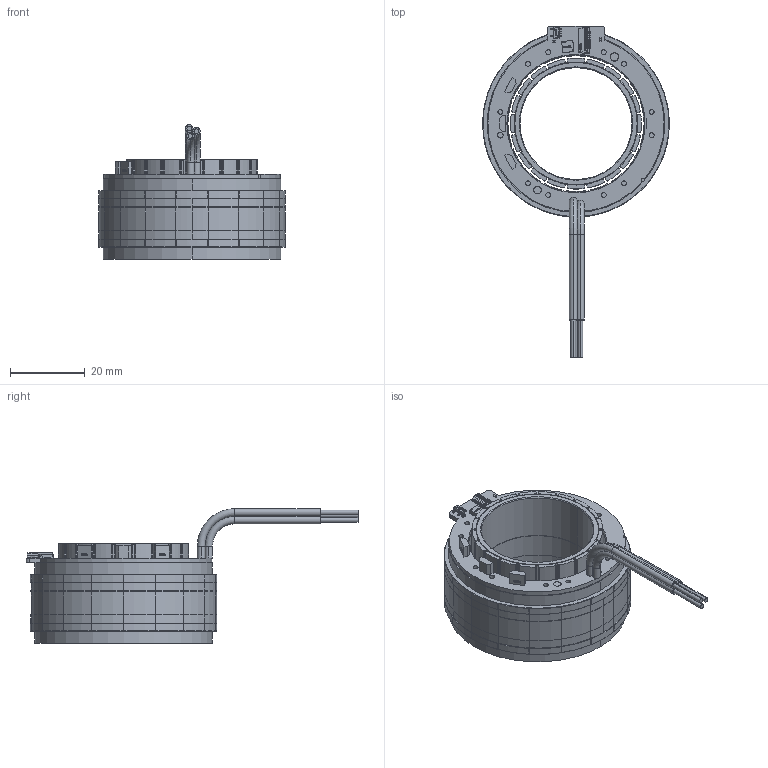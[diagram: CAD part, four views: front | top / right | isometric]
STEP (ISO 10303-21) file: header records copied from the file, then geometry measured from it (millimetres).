
FILE_DESCRIPTION (( 'STEP AP203' ), '1' );
FILE_NAME ('FL-50-15-»ô¶û.STEP', '2025-04-03T01:41:06', ( 'China' ), ( 'Microsoft' ), 'SwSTEP 2.0', 'SolidWorks 2020', '' );
FILE_SCHEMA (( 'CONFIG_CONTROL_DESIGN' ));
Length unit declared in the file: millimetre
Products named in the file (1): FL-50-15-齊嫌
Bounding box: 50 x 88.88 x 36.04 mm (x, y, z)
Volume: 25728.5 mm3; surface area: 26066.5 mm2
Topology: 191 solids, 191 shells, 4767 faces, 12339 edges, 8084 vertices
Faces by surface type: plane 2603, cylinder 1039, bspline 941, cone 84, sphere 54, torus 46
Entity records: 156929 total; most frequent: CARTESIAN_POINT 46051, ORIENTED_EDGE 24606, DIRECTION 19796, EDGE_CURVE 12303, VERTEX_POINT 8079, VECTOR 7756, LINE 7756, AXIS2_PLACEMENT_3D 6020
